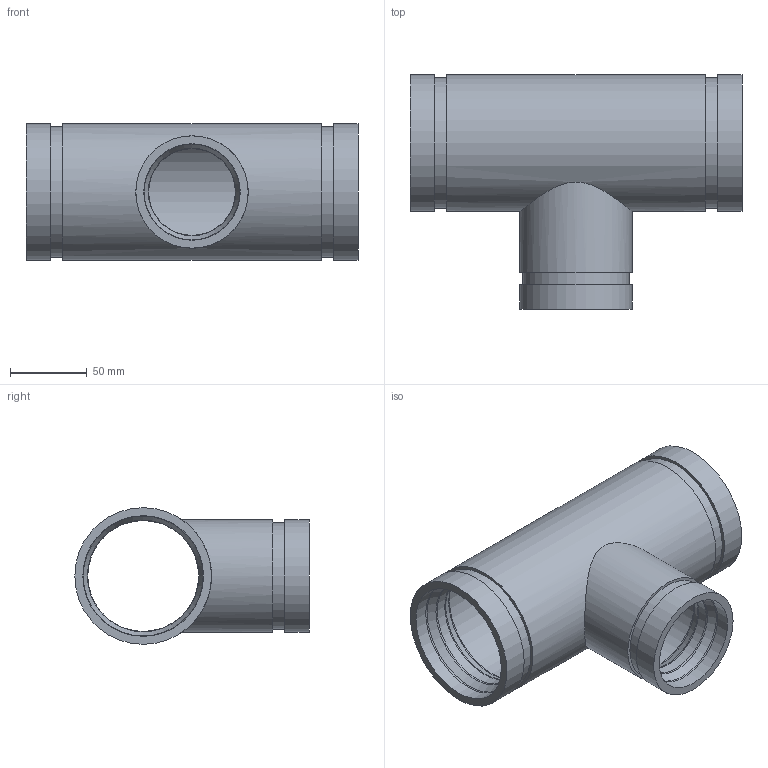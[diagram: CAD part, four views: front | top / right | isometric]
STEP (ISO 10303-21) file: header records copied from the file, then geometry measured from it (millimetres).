
FILE_DESCRIPTION(/* description */ ('VIC REDUCING TEE No 425H-SS','CAx-IF Rec.Pracs.---Representation and Presentation of Product Manufacturing Information (PMI)---4.0---2014-10-13'),/* implementation_level */ '2;1');
FILE_NAME(/* name */ 'C:\Users\kkamble\AppData\Roaming\Autodesk\ApplicationPlugins\Back Up\Victaulic_SS-OGS_Tee Reducing_Sched 40S_No 425H SS (OGS)\Victaulic_SS-OGS_Tee Reducing_Sched 40S_No 425H SS (OGS)_03.0x02.5 (80x65).stp',/* time_stamp */ '2020-08-27T17:19:47+06:00',/* author */ ('CORINNE GRAY'),/* organization */ ('Victaulic'),/* preprocessor_version */ 'ST-DEVELOPER v17.2',/* originating_system */ 'Autodesk Inventor 2019',/* authorisation */ '');
FILE_SCHEMA (('AP242_MANAGED_MODEL_BASED_3D_ENGINEERING_MIM_LF { 1 0 10303 442 1 1 4 }'));
Length unit declared in the file: inch
Products named in the file (1): 425H SS-03.0x02.5
Bounding box: 215.9 x 152.4 x 88.9 mm (x, y, z)
Volume: 374336.2 mm3; surface area: 143687.9 mm2
Topology: 1 solids, 1 shells, 43 faces, 134 edges, 100 vertices
Faces by surface type: cylinder 16, torus 12, plane 9, cone 6
Full cylindrical faces by diameter (mm): 56.388 x1, 62.738 x2, 69.088 x1, 72.034 x2, 73.025 x2, 78.486 x3, 84.938 x2, 88.9 x3
Entity records: 1919 total; most frequent: CARTESIAN_POINT 427, DIRECTION 352, ORIENTED_EDGE 268, AXIS2_PLACEMENT_3D 165, EDGE_CURVE 134, CIRCLE 108, VERTEX_POINT 100, EDGE_LOOP 54
